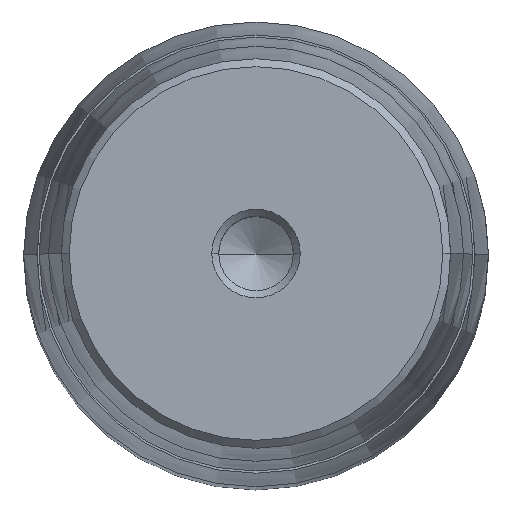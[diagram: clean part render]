
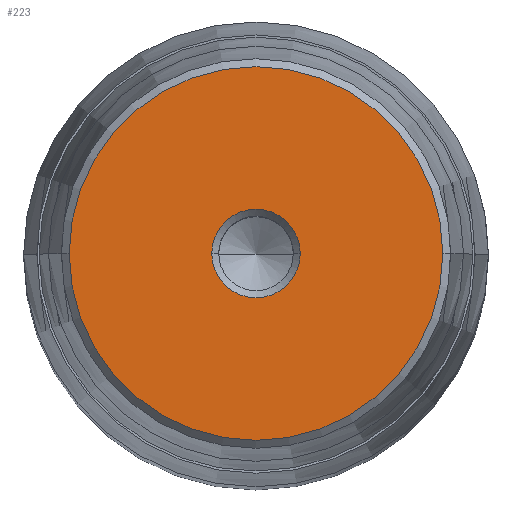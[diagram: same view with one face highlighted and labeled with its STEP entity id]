
A CAD part, top view. The second image highlights one B-rep face of the part: STEP entity #223.
In plain terms, the highlighted planar face has unit normal (0, 0, 1).
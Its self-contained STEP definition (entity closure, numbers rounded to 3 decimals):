
#148=CARTESIAN_POINT('Axis2P3D Location',(0.,0.,69.)) ;
#152=CARTESIAN_POINT('Vertex',(-6.,0.,69.)) ;
#154=CARTESIAN_POINT('Vertex',(6.,0.,69.)) ;
#191=CARTESIAN_POINT('Axis2P3D Location',(0.,6.,69.)) ;
#196=CARTESIAN_POINT('Axis2P3D Location',(0.,0.,69.)) ;
#200=CARTESIAN_POINT('Vertex',(-25.325,0.,69.)) ;
#202=CARTESIAN_POINT('Vertex',(25.325,0.,69.)) ;
#205=CARTESIAN_POINT('Axis2P3D Location',(0.,0.,69.)) ;
#214=CARTESIAN_POINT('Axis2P3D Location',(0.,0.,69.)) ;
#149=DIRECTION('Axis2P3D Direction',(0.,-0.,1.)) ;
#192=DIRECTION('Axis2P3D Direction',(0.,0.,-1.)) ;
#193=DIRECTION('Axis2P3D XDirection',(-1.,0.,0.)) ;
#197=DIRECTION('Axis2P3D Direction',(0.,0.,-1.)) ;
#206=DIRECTION('Axis2P3D Direction',(0.,0.,-1.)) ;
#215=DIRECTION('Axis2P3D Direction',(0.,0.,-1.)) ;
#150=AXIS2_PLACEMENT_3D('Circle Axis2P3D',#148,#149,$) ;
#194=AXIS2_PLACEMENT_3D('Plane Axis2P3D',#191,#192,#193) ;
#198=AXIS2_PLACEMENT_3D('Circle Axis2P3D',#196,#197,$) ;
#207=AXIS2_PLACEMENT_3D('Circle Axis2P3D',#205,#206,$) ;
#216=AXIS2_PLACEMENT_3D('Circle Axis2P3D',#214,#215,$) ;
#211=ORIENTED_EDGE('',*,*,#204,.F.) ;
#212=ORIENTED_EDGE('',*,*,#209,.F.) ;
#220=ORIENTED_EDGE('',*,*,#218,.T.) ;
#221=ORIENTED_EDGE('',*,*,#156,.T.) ;
#222=FACE_BOUND('',#219,.T.) ;
#223=ADVANCED_FACE('722-63x280x331',(#213,#222),#195,.F.) ;
#151=CIRCLE('generated circle',#150,6.) ;
#199=CIRCLE('generated circle',#198,25.325) ;
#208=CIRCLE('generated circle',#207,25.325) ;
#217=CIRCLE('generated circle',#216,6.) ;
#156=EDGE_CURVE('',#153,#155,#151,.F.) ;
#204=EDGE_CURVE('',#201,#203,#199,.T.) ;
#209=EDGE_CURVE('',#203,#201,#208,.T.) ;
#218=EDGE_CURVE('',#155,#153,#217,.T.) ;
#210=EDGE_LOOP('',(#211,#212)) ;
#219=EDGE_LOOP('',(#220,#221)) ;
#213=FACE_OUTER_BOUND('',#210,.T.) ;
#195=PLANE('Plane',#194) ;
#153=VERTEX_POINT('',#152) ;
#155=VERTEX_POINT('',#154) ;
#201=VERTEX_POINT('',#200) ;
#203=VERTEX_POINT('',#202) ;
